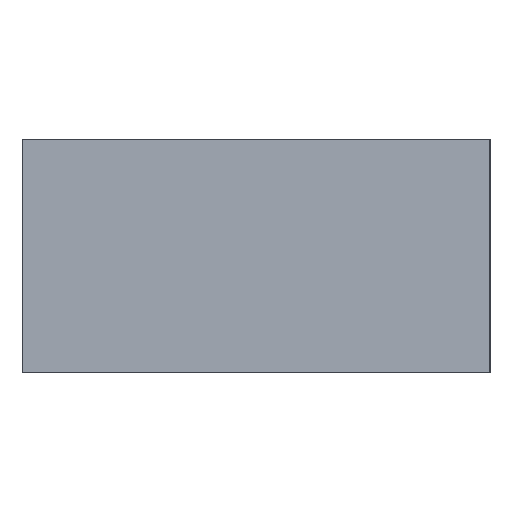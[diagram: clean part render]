
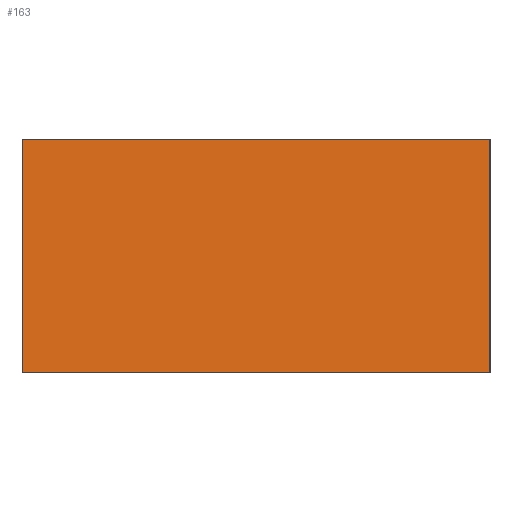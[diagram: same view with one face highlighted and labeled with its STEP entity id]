
A CAD part, left-side view. The second image highlights one B-rep face of the part: STEP entity #163.
In plain terms, the highlighted planar face has unit normal (-0.707, -0.707, 0).
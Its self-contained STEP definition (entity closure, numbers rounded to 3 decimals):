
#100=CARTESIAN_POINT('',(0.0,8.0,-4.0));
#101=VERTEX_POINT('',#100);
#108=CARTESIAN_POINT('',(0.0,8.0,0.0));
#109=VERTEX_POINT('',#108);
#110=CARTESIAN_POINT('',(0.0,8.0,0.0));
#111=DIRECTION('',(0.0,0.0,-1.0));
#112=VECTOR('',#111,4.0);
#113=LINE('',#110,#112);
#114=EDGE_CURVE('',#109,#101,#113,.T.);
#133=CARTESIAN_POINT('',(0.0,8.0,0.0));
#134=DIRECTION('',(-0.707,-0.707,0.0));
#135=DIRECTION('',(0.0,0.0,1.0));
#136=AXIS2_PLACEMENT_3D('',#133,#134,#135);
#137=PLANE('',#136);
#138=CARTESIAN_POINT('',(8.,0.,-4.0));
#139=VERTEX_POINT('',#138);
#140=CARTESIAN_POINT('',(0.0,8.0,-4.0));
#141=DIRECTION('',(0.707,-0.707,0.0));
#142=VECTOR('',#141,11.314);
#143=LINE('',#140,#142);
#144=EDGE_CURVE('',#101,#139,#143,.T.);
#145=ORIENTED_EDGE('',*,*,#144,.T.);
#146=CARTESIAN_POINT('',(8.,0.,0.0));
#147=VERTEX_POINT('',#146);
#148=CARTESIAN_POINT('',(8.,0.,0.0));
#149=DIRECTION('',(0.0,0.0,-1.0));
#150=VECTOR('',#149,4.0);
#151=LINE('',#148,#150);
#152=EDGE_CURVE('',#147,#139,#151,.T.);
#153=ORIENTED_EDGE('',*,*,#152,.F.);
#154=CARTESIAN_POINT('',(0.0,8.0,0.0));
#155=DIRECTION('',(0.707,-0.707,0.0));
#156=VECTOR('',#155,11.314);
#157=LINE('',#154,#156);
#158=EDGE_CURVE('',#109,#147,#157,.T.);
#159=ORIENTED_EDGE('',*,*,#158,.F.);
#160=ORIENTED_EDGE('',*,*,#114,.T.);
#161=EDGE_LOOP('',(#145,#153,#159,#160));
#162=FACE_OUTER_BOUND('',#161,.T.);
#163=ADVANCED_FACE('',(#162),#137,.T.);
